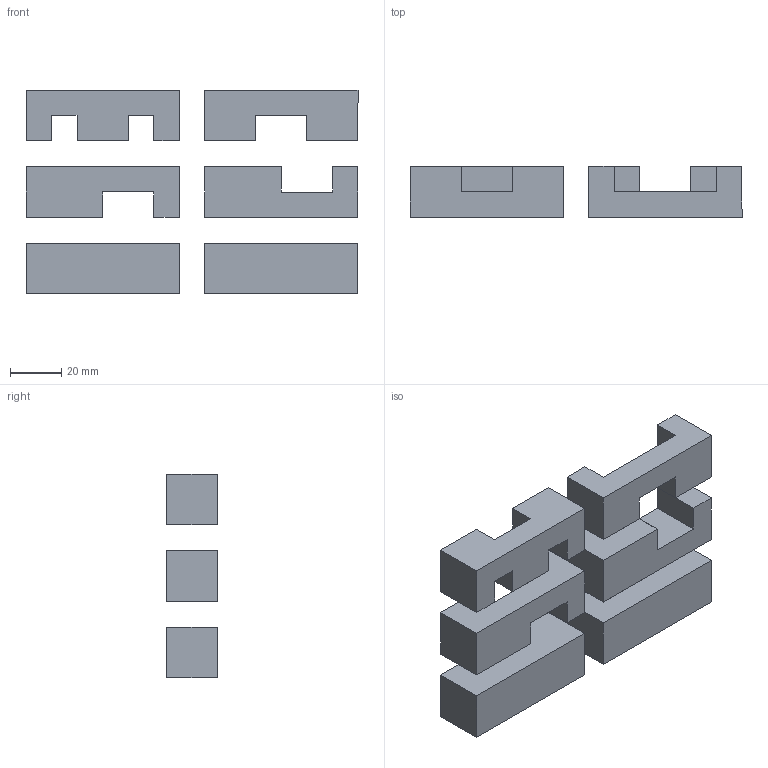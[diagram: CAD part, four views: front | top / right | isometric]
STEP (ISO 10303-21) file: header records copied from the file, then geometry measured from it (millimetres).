
FILE_DESCRIPTION (( 'STEP AP214' ), '1' );
FILE_NAME ('pirunnyrkki.STEP', '2017-05-10T17:32:08', ( '' ), ( '' ), 'SwSTEP 2.0', 'SolidWorks 2017', '' );
FILE_SCHEMA (( 'AUTOMOTIVE_DESIGN' ));
Length unit declared in the file: millimetre
Products named in the file (7): Palikka 1; Palikka 2; Palikka 5; Palikka 3; pirunnyrkki; Palikka 4; Palikka 6
Assembly tree (6 placements, depth 2):
  pirunnyrkki
    Palikka 1
    Palikka 2
    Palikka 3
    Palikka 4
    Palikka 5
    Palikka 6
Bounding box: 130 x 19.95 x 79.85 mm (x, y, z)
Volume: 103281.2 mm3; surface area: 32082 mm2
Topology: 6 solids, 6 shells, 76 faces, 190 edges, 126 vertices
Faces by surface type: plane 76
Entity records: 2504 total; most frequent: CARTESIAN_POINT 401, ORIENTED_EDGE 380, DIRECTION 360, VECTOR 190, EDGE_CURVE 190, LINE 190, VERTEX_POINT 126, AXIS2_PLACEMENT_3D 85
